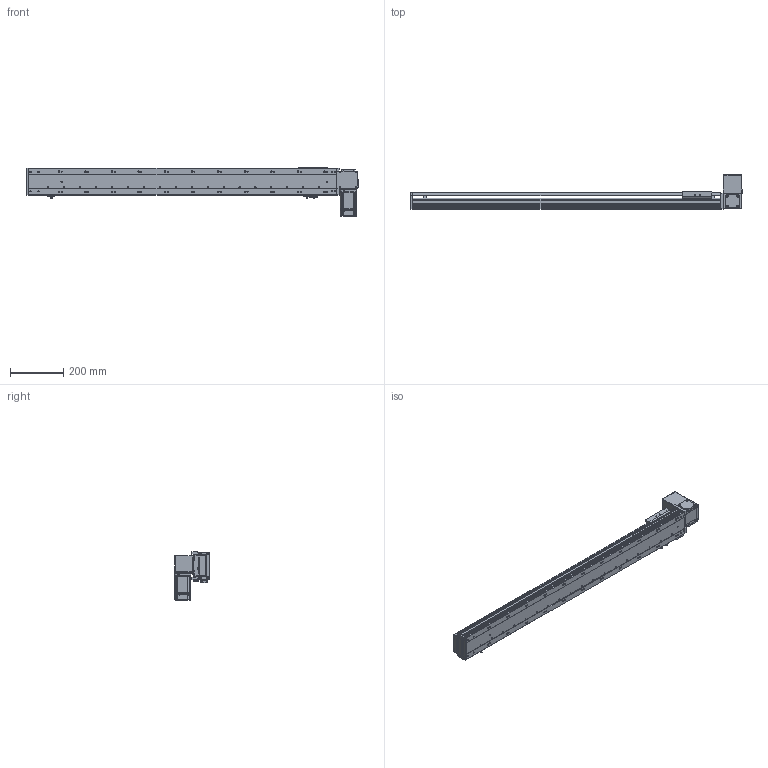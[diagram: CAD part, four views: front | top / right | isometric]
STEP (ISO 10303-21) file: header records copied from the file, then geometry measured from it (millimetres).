
FILE_DESCRIPTION (( 'STEP AP203' ), '1' );
FILE_NAME ('RY100-T-300-UL.SLDASM_950.step', '2024-04-25T08:39:57', ( '盈信电脑' ), ( '东莞市道滘镇水果街19号' ), 'SwSTEP 2.0', 'SolidWorks 2016', '' );
FILE_SCHEMA (( 'CONFIG_CONTROL_DESIGN' ));
Length unit declared in the file: millimetre
Products named in the file (15): RY100-T-300-RK倰第菁釱_950; RY100綴裔啣; RY100-T肮祭謫臏賑輸; RY100-T-300-UL.SLDASM_950; 1; RY100-T左右折电机安装板; RY100-T肮祭謫翋盓傅釱; 覜茼ん672; RY100-T翋肮祭謫裔啣; RY100-T-300-RK倰第奻裔_950; 滅袉蝶18-10; RY100-T翋肮祭謫裔啣2; RY80-T肮祭謫奻殏俋欶; RY100-T粣創揤踡裔; RY100俋离覜茼え
Assembly tree (17 placements, depth 2):
  RY100-T-300-UL.SLDASM_950
    RY100-T-300-RK倰第菁釱_950
    RY100-T-300-RK倰第奻裔_950
    RY100-T肮祭謫臏賑輸
    RY100綴裔啣
    覜茼ん672  x3
    RY100俋离覜茼え
    RY100-T肮祭謫翋盓傅釱
    滅袉蝶18-10  x2
    RY100-T翋肮祭謫裔啣2
    RY100-T翋肮祭謫裔啣
    1
    RY100-T左右折电机安装板
    RY80-T肮祭謫奻殏俋欶
    RY100-T粣創揤踡裔
Bounding box: 1250 x 130.5 x 182.5 mm (x, y, z)
Volume: 2541860.7 mm3; surface area: 1048273.2 mm2
Topology: 17 solids, 17 shells, 2287 faces, 6393 edges, 4155 vertices
Faces by surface type: plane 1219, cylinder 851, cone 139, bspline 78
Entity records: 74475 total; most frequent: CARTESIAN_POINT 18269, ORIENTED_EDGE 11618, DIRECTION 11019, EDGE_CURVE 5809, VERTEX_POINT 3823, VECTOR 3695, LINE 3695, AXIS2_PLACEMENT_3D 3662
